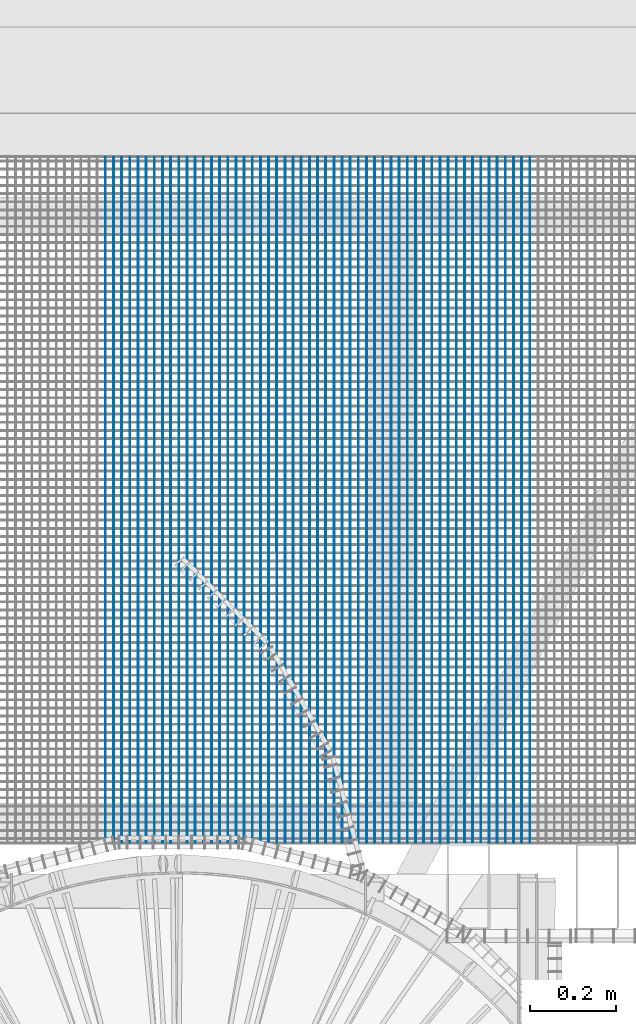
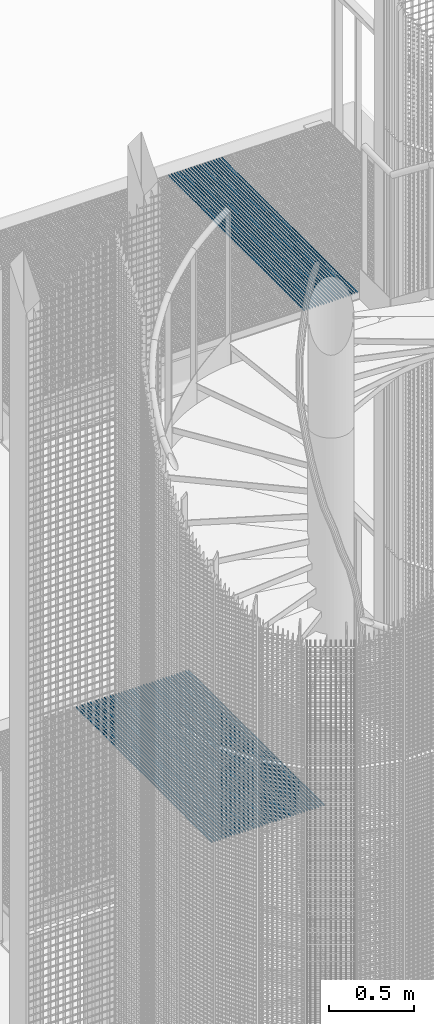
# One storey, part 98 of 1183: 61 beams, 2 elements without a shape of their own.
"""IFC2X3 building model written with IfcOpenShell, lengths in millimetres."""

from ifc_helpers import new_model, si_unit, frame, origin_with_axes, origin_2d_with_axis, place, context, subcontext, project, spatial, rectangle, extrude, material, type_object, element, aggregate, save


model = new_model("IFC2X3")

# Units and contexts
model_context = context("Model", 3, precision=1e-05, world=origin_with_axes())
body_context = subcontext(model_context, "Body", "Model", "MODEL_VIEW")
ifc_project = project(units=[si_unit("LENGTHUNIT", "METRE", prefix="MILLI"), si_unit("AREAUNIT", "SQUARE_METRE"), si_unit("VOLUMEUNIT", "CUBIC_METRE"), si_unit("MASSUNIT", "GRAM", prefix="KILO"), si_unit("TIMEUNIT", "SECOND"), si_unit("PLANEANGLEUNIT", "RADIAN"), si_unit("SOLIDANGLEUNIT", "STERADIAN"), si_unit("THERMODYNAMICTEMPERATUREUNIT", "DEGREE_CELSIUS"), si_unit("LUMINOUSINTENSITYUNIT", "LUMEN")], contexts=[model_context])

# Site, building, storey
site_placement = place(None, origin_with_axes())
site = spatial("IfcSite", under=ifc_project, at=site_placement, Name="Undefined", CompositionType="ELEMENT")
building_placement = place(site_placement, origin_with_axes())
building = spatial("IfcBuilding", under=site, at=building_placement, Name="Undefined", CompositionType="ELEMENT")
storey_placement = place(building_placement, origin_with_axes())
storey = spatial("IfcBuildingStorey", under=building, at=storey_placement, Name="Undefined", CompositionType="ELEMENT", Elevation=0.0)

# Assembly, beams
assembly_1_placement = place(storey_placement, origin_with_axes())
assembly_1 = element("IfcElementAssembly", 1, at=assembly_1_placement, inside=storey, Name="BORDURE", AssemblyPlace="NOTDEFINED", PredefinedType="NOTDEFINED")
ifc_material = material(Name="STEEL/S235JR")
beam_type = type_object("IfcBeamType", Name="PL2*10", PredefinedType="NOTDEFINED")
beam_1_placement = place(assembly_1_placement, frame((22056.1154247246, 1102.00456345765, 13685.0), z_axis=(0.0, 0.0, 1.0), x_axis=(-4.50599999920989e-06, 0.999999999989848, 0.0)))
beam_1 = element("IfcBeam", 2, at=beam_1_placement, type_object=beam_type, material=ifc_material, Name="ENTRETOISE", context=body_context, shape_type="SweptSolid", body=[
    extrude(rectangle(XDim=2.0, YDim=10.0, at=origin_2d_with_axis()), frame((1596.0000000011, -1.35186458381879e-18, -7.27595761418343e-12), z_axis=(-1.0, 0.0, 0.0), x_axis=(0.0, -1.0, 0.0)), (0.0, 0.0, 1.0), 1596.0),
])
beam_2_placement = place(assembly_1_placement, frame((22075.1154247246, 1102.0046569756, 13685.0), z_axis=(0.0, 0.0, 1.0), x_axis=(-4.50599999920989e-06, 0.999999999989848, 0.0)))
beam_2 = element("IfcBeam", 3, at=beam_2_placement, type_object=beam_type, material=ifc_material, Name="ENTRETOISE", context=body_context, shape_type="SweptSolid", body=[
    extrude(rectangle(XDim=2.0, YDim=10.0, at=origin_2d_with_axis()), frame((1596.0000000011, -1.35186458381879e-18, -7.27595761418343e-12), z_axis=(-1.0, 0.0, 0.0), x_axis=(0.0, -1.0, 0.0)), (0.0, 0.0, 1.0), 1596.0),
])
beam_3_placement = place(assembly_1_placement, frame((22094.1154247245, 1102.00475049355, 13685.0), z_axis=(0.0, 0.0, 1.0), x_axis=(-4.50599999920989e-06, 0.999999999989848, 0.0)))
beam_3 = element("IfcBeam", 4, at=beam_3_placement, type_object=beam_type, material=ifc_material, Name="ENTRETOISE", context=body_context, shape_type="SweptSolid", body=[
    extrude(rectangle(XDim=2.0, YDim=10.0, at=origin_2d_with_axis()), frame((1596.0000000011, -1.35186458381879e-18, -7.27595761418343e-12), z_axis=(-1.0, 0.0, 0.0), x_axis=(0.0, -1.0, 0.0)), (0.0, 0.0, 1.0), 1596.0),
])
beam_4_placement = place(assembly_1_placement, frame((22113.1154247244, 1102.0048440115, 13685.0), z_axis=(0.0, 0.0, 1.0), x_axis=(-4.50599999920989e-06, 0.999999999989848, 0.0)))
beam_4 = element("IfcBeam", 5, at=beam_4_placement, type_object=beam_type, material=ifc_material, Name="ENTRETOISE", context=body_context, shape_type="SweptSolid", body=[
    extrude(rectangle(XDim=2.0, YDim=10.0, at=origin_2d_with_axis()), frame((1596.0000000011, -1.35186458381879e-18, -7.27595761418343e-12), z_axis=(-1.0, 0.0, 0.0), x_axis=(0.0, -1.0, 0.0)), (0.0, 0.0, 1.0), 1596.0),
])
beam_5_placement = place(assembly_1_placement, frame((22132.1154247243, 1102.00493752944, 13685.0), z_axis=(0.0, 0.0, 1.0), x_axis=(-4.50599999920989e-06, 0.999999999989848, 0.0)))
beam_5 = element("IfcBeam", 6, at=beam_5_placement, type_object=beam_type, material=ifc_material, Name="ENTRETOISE", context=body_context, shape_type="SweptSolid", body=[
    extrude(rectangle(XDim=2.0, YDim=10.0, at=origin_2d_with_axis()), frame((1596.0000000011, -1.35186458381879e-18, -7.27595761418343e-12), z_axis=(-1.0, 0.0, 0.0), x_axis=(0.0, -1.0, 0.0)), (0.0, 0.0, 1.0), 1596.0),
])
beam_6_placement = place(assembly_1_placement, frame((22151.1154247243, 1102.00503104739, 13685.0), z_axis=(0.0, 0.0, 1.0), x_axis=(-4.50599999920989e-06, 0.999999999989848, 0.0)))
beam_6 = element("IfcBeam", 7, at=beam_6_placement, type_object=beam_type, material=ifc_material, Name="ENTRETOISE", context=body_context, shape_type="SweptSolid", body=[
    extrude(rectangle(XDim=2.0, YDim=10.0, at=origin_2d_with_axis()), frame((1596.0000000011, -1.35186458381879e-18, -7.27595761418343e-12), z_axis=(-1.0, 0.0, 0.0), x_axis=(0.0, -1.0, 0.0)), (0.0, 0.0, 1.0), 1596.0),
])
beam_7_placement = place(assembly_1_placement, frame((22170.1154247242, 1102.00512456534, 13685.0), z_axis=(0.0, 0.0, 1.0), x_axis=(-4.50599999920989e-06, 0.999999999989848, 0.0)))
beam_7 = element("IfcBeam", 8, at=beam_7_placement, type_object=beam_type, material=ifc_material, Name="ENTRETOISE", context=body_context, shape_type="SweptSolid", body=[
    extrude(rectangle(XDim=2.0, YDim=10.0, at=origin_2d_with_axis()), frame((1596.0000000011, -1.35186458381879e-18, -7.27595761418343e-12), z_axis=(-1.0, 0.0, 0.0), x_axis=(0.0, -1.0, 0.0)), (0.0, 0.0, 1.0), 1596.0),
])
beam_8_placement = place(assembly_1_placement, frame((22189.1154247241, 1102.00521808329, 13685.0), z_axis=(0.0, 0.0, 1.0), x_axis=(-4.50599999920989e-06, 0.999999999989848, 0.0)))
beam_8 = element("IfcBeam", 9, at=beam_8_placement, type_object=beam_type, material=ifc_material, Name="ENTRETOISE", context=body_context, shape_type="SweptSolid", body=[
    extrude(rectangle(XDim=2.0, YDim=10.0, at=origin_2d_with_axis()), frame((1596.0000000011, -1.35186458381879e-18, -7.27595761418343e-12), z_axis=(-1.0, 0.0, 0.0), x_axis=(0.0, -1.0, 0.0)), (0.0, 0.0, 1.0), 1596.0),
])
beam_9_placement = place(assembly_1_placement, frame((22208.1154247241, 1102.00531160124, 13685.0), z_axis=(0.0, 0.0, 1.0), x_axis=(-4.50599999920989e-06, 0.999999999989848, 0.0)))
beam_9 = element("IfcBeam", 10, at=beam_9_placement, type_object=beam_type, material=ifc_material, Name="ENTRETOISE", context=body_context, shape_type="SweptSolid", body=[
    extrude(rectangle(XDim=2.0, YDim=10.0, at=origin_2d_with_axis()), frame((1596.0000000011, -1.35186458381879e-18, -7.27595761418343e-12), z_axis=(-1.0, 0.0, 0.0), x_axis=(0.0, -1.0, 0.0)), (0.0, 0.0, 1.0), 1596.0),
])
beam_10_placement = place(assembly_1_placement, frame((22227.115424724, 1102.00540511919, 13685.0), z_axis=(0.0, 0.0, 1.0), x_axis=(-4.50599999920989e-06, 0.999999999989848, 0.0)))
beam_10 = element("IfcBeam", 11, at=beam_10_placement, type_object=beam_type, material=ifc_material, Name="ENTRETOISE", context=body_context, shape_type="SweptSolid", body=[
    extrude(rectangle(XDim=2.0, YDim=10.0, at=origin_2d_with_axis()), frame((1596.0000000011, -1.35186458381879e-18, -7.27595761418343e-12), z_axis=(-1.0, 0.0, 0.0), x_axis=(0.0, -1.0, 0.0)), (0.0, 0.0, 1.0), 1596.0),
])
beam_11_placement = place(assembly_1_placement, frame((22246.1154247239, 1102.00549863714, 13685.0), z_axis=(0.0, 0.0, 1.0), x_axis=(-4.50599999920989e-06, 0.999999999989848, 0.0)))
beam_11 = element("IfcBeam", 12, at=beam_11_placement, type_object=beam_type, material=ifc_material, Name="ENTRETOISE", context=body_context, shape_type="SweptSolid", body=[
    extrude(rectangle(XDim=2.0, YDim=10.0, at=origin_2d_with_axis()), frame((1596.0000000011, -1.35186458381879e-18, -7.27595761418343e-12), z_axis=(-1.0, 0.0, 0.0), x_axis=(0.0, -1.0, 0.0)), (0.0, 0.0, 1.0), 1596.0),
])
beam_12_placement = place(assembly_1_placement, frame((22265.1154247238, 1102.00559215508, 13685.0), z_axis=(0.0, 0.0, 1.0), x_axis=(-4.50599999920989e-06, 0.999999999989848, 0.0)))
beam_12 = element("IfcBeam", 13, at=beam_12_placement, type_object=beam_type, material=ifc_material, Name="ENTRETOISE", context=body_context, shape_type="SweptSolid", body=[
    extrude(rectangle(XDim=2.0, YDim=10.0, at=origin_2d_with_axis()), frame((1596.0000000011, -1.35186458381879e-18, -7.27595761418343e-12), z_axis=(-1.0, 0.0, 0.0), x_axis=(0.0, -1.0, 0.0)), (0.0, 0.0, 1.0), 1596.0),
])
beam_13_placement = place(assembly_1_placement, frame((22284.1154247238, 1102.00568567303, 13685.0), z_axis=(0.0, 0.0, 1.0), x_axis=(-4.50599999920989e-06, 0.999999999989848, 0.0)))
beam_13 = element("IfcBeam", 14, at=beam_13_placement, type_object=beam_type, material=ifc_material, Name="ENTRETOISE", context=body_context, shape_type="SweptSolid", body=[
    extrude(rectangle(XDim=2.0, YDim=10.0, at=origin_2d_with_axis()), frame((1596.0000000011, -1.35186458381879e-18, -7.27595761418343e-12), z_axis=(-1.0, 0.0, 0.0), x_axis=(0.0, -1.0, 0.0)), (0.0, 0.0, 1.0), 1596.0),
])
beam_14_placement = place(assembly_1_placement, frame((22303.1154247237, 1102.00577919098, 13685.0), z_axis=(0.0, 0.0, 1.0), x_axis=(-4.50599999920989e-06, 0.999999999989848, 0.0)))
beam_14 = element("IfcBeam", 15, at=beam_14_placement, type_object=beam_type, material=ifc_material, Name="ENTRETOISE", context=body_context, shape_type="SweptSolid", body=[
    extrude(rectangle(XDim=2.0, YDim=10.0, at=origin_2d_with_axis()), frame((1596.0000000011, -1.35186458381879e-18, -7.27595761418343e-12), z_axis=(-1.0, 0.0, 0.0), x_axis=(0.0, -1.0, 0.0)), (0.0, 0.0, 1.0), 1596.0),
])
beam_15_placement = place(assembly_1_placement, frame((22322.1154247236, 1102.00587270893, 13685.0), z_axis=(0.0, 0.0, 1.0), x_axis=(-4.50599999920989e-06, 0.999999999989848, 0.0)))
beam_15 = element("IfcBeam", 16, at=beam_15_placement, type_object=beam_type, material=ifc_material, Name="ENTRETOISE", context=body_context, shape_type="SweptSolid", body=[
    extrude(rectangle(XDim=2.0, YDim=10.0, at=origin_2d_with_axis()), frame((1596.0000000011, -1.35186458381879e-18, -7.27595761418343e-12), z_axis=(-1.0, 0.0, 0.0), x_axis=(0.0, -1.0, 0.0)), (0.0, 0.0, 1.0), 1596.0),
])
beam_16_placement = place(assembly_1_placement, frame((22341.1154247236, 1102.00596622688, 13685.0), z_axis=(0.0, 0.0, 1.0), x_axis=(-4.50599999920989e-06, 0.999999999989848, 0.0)))
beam_16 = element("IfcBeam", 17, at=beam_16_placement, type_object=beam_type, material=ifc_material, Name="ENTRETOISE", context=body_context, shape_type="SweptSolid", body=[
    extrude(rectangle(XDim=2.0, YDim=10.0, at=origin_2d_with_axis()), frame((1596.0000000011, -1.35186458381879e-18, -7.27595761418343e-12), z_axis=(-1.0, 0.0, 0.0), x_axis=(0.0, -1.0, 0.0)), (0.0, 0.0, 1.0), 1596.0),
])
beam_17_placement = place(assembly_1_placement, frame((22360.1154247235, 1102.00605974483, 13685.0), z_axis=(0.0, 0.0, 1.0), x_axis=(-4.50599999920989e-06, 0.999999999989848, 0.0)))
beam_17 = element("IfcBeam", 18, at=beam_17_placement, type_object=beam_type, material=ifc_material, Name="ENTRETOISE", context=body_context, shape_type="SweptSolid", body=[
    extrude(rectangle(XDim=2.0, YDim=10.0, at=origin_2d_with_axis()), frame((1596.0000000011, -1.35186458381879e-18, -7.27595761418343e-12), z_axis=(-1.0, 0.0, 0.0), x_axis=(0.0, -1.0, 0.0)), (0.0, 0.0, 1.0), 1596.0),
])
beam_18_placement = place(assembly_1_placement, frame((22379.1154247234, 1102.00615326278, 13685.0), z_axis=(0.0, 0.0, 1.0), x_axis=(-4.50599999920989e-06, 0.999999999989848, 0.0)))
beam_18 = element("IfcBeam", 19, at=beam_18_placement, type_object=beam_type, material=ifc_material, Name="ENTRETOISE", context=body_context, shape_type="SweptSolid", body=[
    extrude(rectangle(XDim=2.0, YDim=10.0, at=origin_2d_with_axis()), frame((1596.0000000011, -1.35186458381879e-18, -7.27595761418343e-12), z_axis=(-1.0, 0.0, 0.0), x_axis=(0.0, -1.0, 0.0)), (0.0, 0.0, 1.0), 1596.0),
])
beam_19_placement = place(assembly_1_placement, frame((22398.1154247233, 1102.00624678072, 13685.0), z_axis=(0.0, 0.0, 1.0), x_axis=(-4.50599999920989e-06, 0.999999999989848, 0.0)))
beam_19 = element("IfcBeam", 20, at=beam_19_placement, type_object=beam_type, material=ifc_material, Name="ENTRETOISE", context=body_context, shape_type="SweptSolid", body=[
    extrude(rectangle(XDim=2.0, YDim=10.0, at=origin_2d_with_axis()), frame((1596.0000000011, -1.35186458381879e-18, -7.27595761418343e-12), z_axis=(-1.0, 0.0, 0.0), x_axis=(0.0, -1.0, 0.0)), (0.0, 0.0, 1.0), 1596.0),
])
beam_20_placement = place(assembly_1_placement, frame((22417.1154247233, 1102.00634029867, 13685.0), z_axis=(0.0, 0.0, 1.0), x_axis=(-4.50599999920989e-06, 0.999999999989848, 0.0)))
beam_20 = element("IfcBeam", 21, at=beam_20_placement, type_object=beam_type, material=ifc_material, Name="ENTRETOISE", context=body_context, shape_type="SweptSolid", body=[
    extrude(rectangle(XDim=2.0, YDim=10.0, at=origin_2d_with_axis()), frame((1596.0000000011, -1.35186458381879e-18, -7.27595761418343e-12), z_axis=(-1.0, 0.0, 0.0), x_axis=(0.0, -1.0, 0.0)), (0.0, 0.0, 1.0), 1596.0),
])
aggregate(assembly_1, [beam_1, beam_2, beam_3, beam_4, beam_5, beam_6, beam_7, beam_8, beam_9, beam_10, beam_11, beam_12, beam_13, beam_14, beam_15, beam_16, beam_17, beam_18, beam_19, beam_20])

assembly_2_placement = place(storey_placement, origin_with_axes())
assembly_2 = element("IfcElementAssembly", 22, at=assembly_2_placement, inside=storey, Name="BORDURE", AssemblyPlace="NOTDEFINED", PredefinedType="NOTDEFINED")
beam_21_placement = place(assembly_2_placement, frame((21429.115424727, 1102.00147736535, 10085.0), z_axis=(0.0, 0.0, 1.0), x_axis=(-4.50599999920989e-06, 0.999999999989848, 0.0)))
beam_21 = element("IfcBeam", 23, at=beam_21_placement, type_object=beam_type, material=ifc_material, Name="ENTRETOISE", context=body_context, shape_type="SweptSolid", body=[
    extrude(rectangle(XDim=2.0, YDim=10.0, at=origin_2d_with_axis()), frame((1596.0000000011, -1.35186458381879e-18, -7.27595761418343e-12), z_axis=(-1.0, 0.0, 0.0), x_axis=(0.0, -1.0, 0.0)), (0.0, 0.0, 1.0), 1596.0),
])
beam_22_placement = place(assembly_2_placement, frame((21448.1154247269, 1102.0015708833, 10085.0), z_axis=(0.0, 0.0, 1.0), x_axis=(-4.50599999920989e-06, 0.999999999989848, 0.0)))
beam_22 = element("IfcBeam", 24, at=beam_22_placement, type_object=beam_type, material=ifc_material, Name="ENTRETOISE", context=body_context, shape_type="SweptSolid", body=[
    extrude(rectangle(XDim=2.0, YDim=10.0, at=origin_2d_with_axis()), frame((1596.0000000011, -1.35186458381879e-18, -7.27595761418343e-12), z_axis=(-1.0, 0.0, 0.0), x_axis=(0.0, -1.0, 0.0)), (0.0, 0.0, 1.0), 1596.0),
])
beam_23_placement = place(assembly_2_placement, frame((21467.1154247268, 1102.00166440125, 10085.0), z_axis=(0.0, 0.0, 1.0), x_axis=(-4.50599999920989e-06, 0.999999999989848, 0.0)))
beam_23 = element("IfcBeam", 25, at=beam_23_placement, type_object=beam_type, material=ifc_material, Name="ENTRETOISE", context=body_context, shape_type="SweptSolid", body=[
    extrude(rectangle(XDim=2.0, YDim=10.0, at=origin_2d_with_axis()), frame((1596.0000000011, -1.35186458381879e-18, -7.27595761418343e-12), z_axis=(-1.0, 0.0, 0.0), x_axis=(0.0, -1.0, 0.0)), (0.0, 0.0, 1.0), 1596.0),
])
beam_24_placement = place(assembly_2_placement, frame((21486.1154247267, 1102.0017579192, 10085.0), z_axis=(0.0, 0.0, 1.0), x_axis=(-4.50599999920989e-06, 0.999999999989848, 0.0)))
beam_24 = element("IfcBeam", 26, at=beam_24_placement, type_object=beam_type, material=ifc_material, Name="ENTRETOISE", context=body_context, shape_type="SweptSolid", body=[
    extrude(rectangle(XDim=2.0, YDim=10.0, at=origin_2d_with_axis()), frame((1596.0000000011, -1.35186458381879e-18, -7.27595761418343e-12), z_axis=(-1.0, 0.0, 0.0), x_axis=(0.0, -1.0, 0.0)), (0.0, 0.0, 1.0), 1596.0),
])
beam_25_placement = place(assembly_2_placement, frame((21505.1154247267, 1102.00185143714, 10085.0), z_axis=(0.0, 0.0, 1.0), x_axis=(-4.50599999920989e-06, 0.999999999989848, 0.0)))
beam_25 = element("IfcBeam", 27, at=beam_25_placement, type_object=beam_type, material=ifc_material, Name="ENTRETOISE", context=body_context, shape_type="SweptSolid", body=[
    extrude(rectangle(XDim=2.0, YDim=10.0, at=origin_2d_with_axis()), frame((1596.0000000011, -1.35186458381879e-18, -7.27595761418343e-12), z_axis=(-1.0, 0.0, 0.0), x_axis=(0.0, -1.0, 0.0)), (0.0, 0.0, 1.0), 1596.0),
])
beam_26_placement = place(assembly_2_placement, frame((21524.1154247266, 1102.00194495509, 10085.0), z_axis=(0.0, 0.0, 1.0), x_axis=(-4.50599999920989e-06, 0.999999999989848, 0.0)))
beam_26 = element("IfcBeam", 28, at=beam_26_placement, type_object=beam_type, material=ifc_material, Name="ENTRETOISE", context=body_context, shape_type="SweptSolid", body=[
    extrude(rectangle(XDim=2.0, YDim=10.0, at=origin_2d_with_axis()), frame((1596.0000000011, -1.35186458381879e-18, -7.27595761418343e-12), z_axis=(-1.0, 0.0, 0.0), x_axis=(0.0, -1.0, 0.0)), (0.0, 0.0, 1.0), 1596.0),
])
beam_27_placement = place(assembly_2_placement, frame((21543.1154247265, 1102.00203847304, 10085.0), z_axis=(0.0, 0.0, 1.0), x_axis=(-4.50599999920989e-06, 0.999999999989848, 0.0)))
beam_27 = element("IfcBeam", 29, at=beam_27_placement, type_object=beam_type, material=ifc_material, Name="ENTRETOISE", context=body_context, shape_type="SweptSolid", body=[
    extrude(rectangle(XDim=2.0, YDim=10.0, at=origin_2d_with_axis()), frame((1596.0000000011, -1.35186458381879e-18, -7.27595761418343e-12), z_axis=(-1.0, 0.0, 0.0), x_axis=(0.0, -1.0, 0.0)), (0.0, 0.0, 1.0), 1596.0),
])
beam_28_placement = place(assembly_2_placement, frame((21562.1154247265, 1102.00213199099, 10085.0), z_axis=(0.0, 0.0, 1.0), x_axis=(-4.50599999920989e-06, 0.999999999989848, 0.0)))
beam_28 = element("IfcBeam", 30, at=beam_28_placement, type_object=beam_type, material=ifc_material, Name="ENTRETOISE", context=body_context, shape_type="SweptSolid", body=[
    extrude(rectangle(XDim=2.0, YDim=10.0, at=origin_2d_with_axis()), frame((1596.0000000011, -1.35186458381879e-18, -7.27595761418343e-12), z_axis=(-1.0, 0.0, 0.0), x_axis=(0.0, -1.0, 0.0)), (0.0, 0.0, 1.0), 1596.0),
])
beam_29_placement = place(assembly_2_placement, frame((21581.1154247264, 1102.00222550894, 10085.0), z_axis=(0.0, 0.0, 1.0), x_axis=(-4.50599999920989e-06, 0.999999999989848, 0.0)))
beam_29 = element("IfcBeam", 31, at=beam_29_placement, type_object=beam_type, material=ifc_material, Name="ENTRETOISE", context=body_context, shape_type="SweptSolid", body=[
    extrude(rectangle(XDim=2.0, YDim=10.0, at=origin_2d_with_axis()), frame((1596.0000000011, -1.35186458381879e-18, -7.27595761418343e-12), z_axis=(-1.0, 0.0, 0.0), x_axis=(0.0, -1.0, 0.0)), (0.0, 0.0, 1.0), 1596.0),
])
beam_30_placement = place(assembly_2_placement, frame((21600.1154247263, 1102.00231902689, 10085.0), z_axis=(0.0, 0.0, 1.0), x_axis=(-4.50599999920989e-06, 0.999999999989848, 0.0)))
beam_30 = element("IfcBeam", 32, at=beam_30_placement, type_object=beam_type, material=ifc_material, Name="ENTRETOISE", context=body_context, shape_type="SweptSolid", body=[
    extrude(rectangle(XDim=2.0, YDim=10.0, at=origin_2d_with_axis()), frame((1596.0000000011, -1.35186458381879e-18, -7.27595761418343e-12), z_axis=(-1.0, 0.0, 0.0), x_axis=(0.0, -1.0, 0.0)), (0.0, 0.0, 1.0), 1596.0),
])
beam_31_placement = place(assembly_2_placement, frame((21619.1154247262, 1102.00241254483, 10085.0), z_axis=(0.0, 0.0, 1.0), x_axis=(-4.50599999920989e-06, 0.999999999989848, 0.0)))
beam_31 = element("IfcBeam", 33, at=beam_31_placement, type_object=beam_type, material=ifc_material, Name="ENTRETOISE", context=body_context, shape_type="SweptSolid", body=[
    extrude(rectangle(XDim=2.0, YDim=10.0, at=origin_2d_with_axis()), frame((1596.0000000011, -1.35186458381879e-18, -7.27595761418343e-12), z_axis=(-1.0, 0.0, 0.0), x_axis=(0.0, -1.0, 0.0)), (0.0, 0.0, 1.0), 1596.0),
])
beam_32_placement = place(assembly_2_placement, frame((21638.1154247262, 1102.00250606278, 10085.0), z_axis=(0.0, 0.0, 1.0), x_axis=(-4.50599999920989e-06, 0.999999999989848, 0.0)))
beam_32 = element("IfcBeam", 34, at=beam_32_placement, type_object=beam_type, material=ifc_material, Name="ENTRETOISE", context=body_context, shape_type="SweptSolid", body=[
    extrude(rectangle(XDim=2.0, YDim=10.0, at=origin_2d_with_axis()), frame((1596.0000000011, -1.35186458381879e-18, -7.27595761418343e-12), z_axis=(-1.0, 0.0, 0.0), x_axis=(0.0, -1.0, 0.0)), (0.0, 0.0, 1.0), 1596.0),
])
beam_33_placement = place(assembly_2_placement, frame((21657.1154247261, 1102.00259958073, 10085.0), z_axis=(0.0, 0.0, 1.0), x_axis=(-4.50599999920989e-06, 0.999999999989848, 0.0)))
beam_33 = element("IfcBeam", 35, at=beam_33_placement, type_object=beam_type, material=ifc_material, Name="ENTRETOISE", context=body_context, shape_type="SweptSolid", body=[
    extrude(rectangle(XDim=2.0, YDim=10.0, at=origin_2d_with_axis()), frame((1596.0000000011, -1.35186458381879e-18, -7.27595761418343e-12), z_axis=(-1.0, 0.0, 0.0), x_axis=(0.0, -1.0, 0.0)), (0.0, 0.0, 1.0), 1596.0),
])
beam_34_placement = place(assembly_2_placement, frame((21676.115424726, 1102.00269309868, 10085.0), z_axis=(0.0, 0.0, 1.0), x_axis=(-4.50599999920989e-06, 0.999999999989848, 0.0)))
beam_34 = element("IfcBeam", 36, at=beam_34_placement, type_object=beam_type, material=ifc_material, Name="ENTRETOISE", context=body_context, shape_type="SweptSolid", body=[
    extrude(rectangle(XDim=2.0, YDim=10.0, at=origin_2d_with_axis()), frame((1596.0000000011, -1.35186458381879e-18, -7.27595761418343e-12), z_axis=(-1.0, 0.0, 0.0), x_axis=(0.0, -1.0, 0.0)), (0.0, 0.0, 1.0), 1596.0),
])
beam_35_placement = place(assembly_2_placement, frame((21695.115424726, 1102.00278661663, 10085.0), z_axis=(0.0, 0.0, 1.0), x_axis=(-4.50599999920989e-06, 0.999999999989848, 0.0)))
beam_35 = element("IfcBeam", 37, at=beam_35_placement, type_object=beam_type, material=ifc_material, Name="ENTRETOISE", context=body_context, shape_type="SweptSolid", body=[
    extrude(rectangle(XDim=2.0, YDim=10.0, at=origin_2d_with_axis()), frame((1596.0000000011, -1.35186458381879e-18, -7.27595761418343e-12), z_axis=(-1.0, 0.0, 0.0), x_axis=(0.0, -1.0, 0.0)), (0.0, 0.0, 1.0), 1596.0),
])
beam_36_placement = place(assembly_2_placement, frame((21714.1154247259, 1102.00288013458, 10085.0), z_axis=(0.0, 0.0, 1.0), x_axis=(-4.50599999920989e-06, 0.999999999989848, 0.0)))
beam_36 = element("IfcBeam", 38, at=beam_36_placement, type_object=beam_type, material=ifc_material, Name="ENTRETOISE", context=body_context, shape_type="SweptSolid", body=[
    extrude(rectangle(XDim=2.0, YDim=10.0, at=origin_2d_with_axis()), frame((1596.0000000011, -1.35186458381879e-18, -7.27595761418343e-12), z_axis=(-1.0, 0.0, 0.0), x_axis=(0.0, -1.0, 0.0)), (0.0, 0.0, 1.0), 1596.0),
])
beam_37_placement = place(assembly_2_placement, frame((21733.1154247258, 1102.00297365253, 10085.0), z_axis=(0.0, 0.0, 1.0), x_axis=(-4.50599999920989e-06, 0.999999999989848, 0.0)))
beam_37 = element("IfcBeam", 39, at=beam_37_placement, type_object=beam_type, material=ifc_material, Name="ENTRETOISE", context=body_context, shape_type="SweptSolid", body=[
    extrude(rectangle(XDim=2.0, YDim=10.0, at=origin_2d_with_axis()), frame((1596.0000000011, -1.35186458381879e-18, -7.27595761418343e-12), z_axis=(-1.0, 0.0, 0.0), x_axis=(0.0, -1.0, 0.0)), (0.0, 0.0, 1.0), 1596.0),
])
beam_38_placement = place(assembly_2_placement, frame((21752.1154247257, 1102.00306717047, 10085.0), z_axis=(0.0, 0.0, 1.0), x_axis=(-4.50599999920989e-06, 0.999999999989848, 0.0)))
beam_38 = element("IfcBeam", 40, at=beam_38_placement, type_object=beam_type, material=ifc_material, Name="ENTRETOISE", context=body_context, shape_type="SweptSolid", body=[
    extrude(rectangle(XDim=2.0, YDim=10.0, at=origin_2d_with_axis()), frame((1596.0000000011, -1.35186458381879e-18, -7.27595761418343e-12), z_axis=(-1.0, 0.0, 0.0), x_axis=(0.0, -1.0, 0.0)), (0.0, 0.0, 1.0), 1596.0),
])
beam_39_placement = place(assembly_2_placement, frame((21771.1154247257, 1102.00316068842, 10085.0), z_axis=(0.0, 0.0, 1.0), x_axis=(-4.50599999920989e-06, 0.999999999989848, 0.0)))
beam_39 = element("IfcBeam", 41, at=beam_39_placement, type_object=beam_type, material=ifc_material, Name="ENTRETOISE", context=body_context, shape_type="SweptSolid", body=[
    extrude(rectangle(XDim=2.0, YDim=10.0, at=origin_2d_with_axis()), frame((1596.0000000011, -1.35186458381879e-18, -7.27595761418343e-12), z_axis=(-1.0, 0.0, 0.0), x_axis=(0.0, -1.0, 0.0)), (0.0, 0.0, 1.0), 1596.0),
])
beam_40_placement = place(assembly_2_placement, frame((21790.1154247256, 1102.00325420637, 10085.0), z_axis=(0.0, 0.0, 1.0), x_axis=(-4.50599999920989e-06, 0.999999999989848, 0.0)))
beam_40 = element("IfcBeam", 42, at=beam_40_placement, type_object=beam_type, material=ifc_material, Name="ENTRETOISE", context=body_context, shape_type="SweptSolid", body=[
    extrude(rectangle(XDim=2.0, YDim=10.0, at=origin_2d_with_axis()), frame((1596.0000000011, -1.35186458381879e-18, -7.27595761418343e-12), z_axis=(-1.0, 0.0, 0.0), x_axis=(0.0, -1.0, 0.0)), (0.0, 0.0, 1.0), 1596.0),
])
beam_41_placement = place(assembly_2_placement, frame((21809.1154247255, 1102.00334772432, 10085.0), z_axis=(0.0, 0.0, 1.0), x_axis=(-4.50599999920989e-06, 0.999999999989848, 0.0)))
beam_41 = element("IfcBeam", 43, at=beam_41_placement, type_object=beam_type, material=ifc_material, Name="ENTRETOISE", context=body_context, shape_type="SweptSolid", body=[
    extrude(rectangle(XDim=2.0, YDim=10.0, at=origin_2d_with_axis()), frame((1596.0000000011, -1.35186458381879e-18, -7.27595761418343e-12), z_axis=(-1.0, 0.0, 0.0), x_axis=(0.0, -1.0, 0.0)), (0.0, 0.0, 1.0), 1596.0),
])
beam_42_placement = place(assembly_2_placement, frame((21828.1154247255, 1102.00344124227, 10085.0), z_axis=(0.0, 0.0, 1.0), x_axis=(-4.50599999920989e-06, 0.999999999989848, 0.0)))
beam_42 = element("IfcBeam", 44, at=beam_42_placement, type_object=beam_type, material=ifc_material, Name="ENTRETOISE", context=body_context, shape_type="SweptSolid", body=[
    extrude(rectangle(XDim=2.0, YDim=10.0, at=origin_2d_with_axis()), frame((1596.0000000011, -1.35186458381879e-18, -7.27595761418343e-12), z_axis=(-1.0, 0.0, 0.0), x_axis=(0.0, -1.0, 0.0)), (0.0, 0.0, 1.0), 1596.0),
])
beam_43_placement = place(assembly_2_placement, frame((21847.1154247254, 1102.00353476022, 10085.0), z_axis=(0.0, 0.0, 1.0), x_axis=(-4.50599999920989e-06, 0.999999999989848, 0.0)))
beam_43 = element("IfcBeam", 45, at=beam_43_placement, type_object=beam_type, material=ifc_material, Name="ENTRETOISE", context=body_context, shape_type="SweptSolid", body=[
    extrude(rectangle(XDim=2.0, YDim=10.0, at=origin_2d_with_axis()), frame((1596.0000000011, -1.35186458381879e-18, -7.27595761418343e-12), z_axis=(-1.0, 0.0, 0.0), x_axis=(0.0, -1.0, 0.0)), (0.0, 0.0, 1.0), 1596.0),
])
beam_44_placement = place(assembly_2_placement, frame((21866.1154247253, 1102.00362827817, 10085.0), z_axis=(0.0, 0.0, 1.0), x_axis=(-4.50599999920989e-06, 0.999999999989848, 0.0)))
beam_44 = element("IfcBeam", 46, at=beam_44_placement, type_object=beam_type, material=ifc_material, Name="ENTRETOISE", context=body_context, shape_type="SweptSolid", body=[
    extrude(rectangle(XDim=2.0, YDim=10.0, at=origin_2d_with_axis()), frame((1596.0000000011, -1.35186458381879e-18, -7.27595761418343e-12), z_axis=(-1.0, 0.0, 0.0), x_axis=(0.0, -1.0, 0.0)), (0.0, 0.0, 1.0), 1596.0),
])
beam_45_placement = place(assembly_2_placement, frame((21885.1154247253, 1102.00372179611, 10085.0), z_axis=(0.0, 0.0, 1.0), x_axis=(-4.50599999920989e-06, 0.999999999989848, 0.0)))
beam_45 = element("IfcBeam", 47, at=beam_45_placement, type_object=beam_type, material=ifc_material, Name="ENTRETOISE", context=body_context, shape_type="SweptSolid", body=[
    extrude(rectangle(XDim=2.0, YDim=10.0, at=origin_2d_with_axis()), frame((1596.0000000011, -1.35186458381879e-18, -7.27595761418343e-12), z_axis=(-1.0, 0.0, 0.0), x_axis=(0.0, -1.0, 0.0)), (0.0, 0.0, 1.0), 1596.0),
])
beam_46_placement = place(assembly_2_placement, frame((21904.1154247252, 1102.00381531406, 10085.0), z_axis=(0.0, 0.0, 1.0), x_axis=(-4.50599999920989e-06, 0.999999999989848, 0.0)))
beam_46 = element("IfcBeam", 48, at=beam_46_placement, type_object=beam_type, material=ifc_material, Name="ENTRETOISE", context=body_context, shape_type="SweptSolid", body=[
    extrude(rectangle(XDim=2.0, YDim=10.0, at=origin_2d_with_axis()), frame((1596.0000000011, -1.35186458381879e-18, -7.27595761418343e-12), z_axis=(-1.0, 0.0, 0.0), x_axis=(0.0, -1.0, 0.0)), (0.0, 0.0, 1.0), 1596.0),
])
beam_47_placement = place(assembly_2_placement, frame((21923.1154247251, 1102.00390883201, 10085.0), z_axis=(0.0, 0.0, 1.0), x_axis=(-4.50599999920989e-06, 0.999999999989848, 0.0)))
beam_47 = element("IfcBeam", 49, at=beam_47_placement, type_object=beam_type, material=ifc_material, Name="ENTRETOISE", context=body_context, shape_type="SweptSolid", body=[
    extrude(rectangle(XDim=2.0, YDim=10.0, at=origin_2d_with_axis()), frame((1596.0000000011, -1.35186458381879e-18, -7.27595761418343e-12), z_axis=(-1.0, 0.0, 0.0), x_axis=(0.0, -1.0, 0.0)), (0.0, 0.0, 1.0), 1596.0),
])
beam_48_placement = place(assembly_2_placement, frame((21942.115424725, 1102.00400234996, 10085.0), z_axis=(0.0, 0.0, 1.0), x_axis=(-4.50599999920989e-06, 0.999999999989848, 0.0)))
beam_48 = element("IfcBeam", 50, at=beam_48_placement, type_object=beam_type, material=ifc_material, Name="ENTRETOISE", context=body_context, shape_type="SweptSolid", body=[
    extrude(rectangle(XDim=2.0, YDim=10.0, at=origin_2d_with_axis()), frame((1596.0000000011, -1.35186458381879e-18, -7.27595761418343e-12), z_axis=(-1.0, 0.0, 0.0), x_axis=(0.0, -1.0, 0.0)), (0.0, 0.0, 1.0), 1596.0),
])
beam_49_placement = place(assembly_2_placement, frame((21961.115424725, 1102.00409586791, 10085.0), z_axis=(0.0, 0.0, 1.0), x_axis=(-4.50599999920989e-06, 0.999999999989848, 0.0)))
beam_49 = element("IfcBeam", 51, at=beam_49_placement, type_object=beam_type, material=ifc_material, Name="ENTRETOISE", context=body_context, shape_type="SweptSolid", body=[
    extrude(rectangle(XDim=2.0, YDim=10.0, at=origin_2d_with_axis()), frame((1596.0000000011, -1.35186458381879e-18, -7.27595761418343e-12), z_axis=(-1.0, 0.0, 0.0), x_axis=(0.0, -1.0, 0.0)), (0.0, 0.0, 1.0), 1596.0),
])
beam_50_placement = place(assembly_2_placement, frame((21980.1154247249, 1102.00418938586, 10085.0), z_axis=(0.0, 0.0, 1.0), x_axis=(-4.50599999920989e-06, 0.999999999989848, 0.0)))
beam_50 = element("IfcBeam", 52, at=beam_50_placement, type_object=beam_type, material=ifc_material, Name="ENTRETOISE", context=body_context, shape_type="SweptSolid", body=[
    extrude(rectangle(XDim=2.0, YDim=10.0, at=origin_2d_with_axis()), frame((1596.0000000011, -1.35186458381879e-18, -7.27595761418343e-12), z_axis=(-1.0, 0.0, 0.0), x_axis=(0.0, -1.0, 0.0)), (0.0, 0.0, 1.0), 1596.0),
])
beam_51_placement = place(assembly_2_placement, frame((21999.1154247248, 1102.0042829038, 10085.0), z_axis=(0.0, 0.0, 1.0), x_axis=(-4.50599999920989e-06, 0.999999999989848, 0.0)))
beam_51 = element("IfcBeam", 53, at=beam_51_placement, type_object=beam_type, material=ifc_material, Name="ENTRETOISE", context=body_context, shape_type="SweptSolid", body=[
    extrude(rectangle(XDim=2.0, YDim=10.0, at=origin_2d_with_axis()), frame((1596.0000000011, -1.35186458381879e-18, -7.27595761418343e-12), z_axis=(-1.0, 0.0, 0.0), x_axis=(0.0, -1.0, 0.0)), (0.0, 0.0, 1.0), 1596.0),
])
beam_52_placement = place(assembly_2_placement, frame((22018.1154247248, 1102.00437642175, 10085.0), z_axis=(0.0, 0.0, 1.0), x_axis=(-4.50599999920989e-06, 0.999999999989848, 0.0)))
beam_52 = element("IfcBeam", 54, at=beam_52_placement, type_object=beam_type, material=ifc_material, Name="ENTRETOISE", context=body_context, shape_type="SweptSolid", body=[
    extrude(rectangle(XDim=2.0, YDim=10.0, at=origin_2d_with_axis()), frame((1596.0000000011, -1.35186458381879e-18, -7.27595761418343e-12), z_axis=(-1.0, 0.0, 0.0), x_axis=(0.0, -1.0, 0.0)), (0.0, 0.0, 1.0), 1596.0),
])
beam_53_placement = place(assembly_2_placement, frame((22037.1154247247, 1102.0044699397, 10085.0), z_axis=(0.0, 0.0, 1.0), x_axis=(-4.50599999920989e-06, 0.999999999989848, 0.0)))
beam_53 = element("IfcBeam", 55, at=beam_53_placement, type_object=beam_type, material=ifc_material, Name="ENTRETOISE", context=body_context, shape_type="SweptSolid", body=[
    extrude(rectangle(XDim=2.0, YDim=10.0, at=origin_2d_with_axis()), frame((1596.0000000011, -1.35186458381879e-18, -7.27595761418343e-12), z_axis=(-1.0, 0.0, 0.0), x_axis=(0.0, -1.0, 0.0)), (0.0, 0.0, 1.0), 1596.0),
])
beam_54_placement = place(assembly_2_placement, frame((22056.1154247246, 1102.00456345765, 10085.0), z_axis=(0.0, 0.0, 1.0), x_axis=(-4.50599999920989e-06, 0.999999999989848, 0.0)))
beam_54 = element("IfcBeam", 56, at=beam_54_placement, type_object=beam_type, material=ifc_material, Name="ENTRETOISE", context=body_context, shape_type="SweptSolid", body=[
    extrude(rectangle(XDim=2.0, YDim=10.0, at=origin_2d_with_axis()), frame((1596.0000000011, -1.35186458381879e-18, -7.27595761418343e-12), z_axis=(-1.0, 0.0, 0.0), x_axis=(0.0, -1.0, 0.0)), (0.0, 0.0, 1.0), 1596.0),
])
beam_55_placement = place(assembly_2_placement, frame((22075.1154247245, 1102.0046569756, 10085.0), z_axis=(0.0, 0.0, 1.0), x_axis=(-4.50599999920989e-06, 0.999999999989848, 0.0)))
beam_55 = element("IfcBeam", 57, at=beam_55_placement, type_object=beam_type, material=ifc_material, Name="ENTRETOISE", context=body_context, shape_type="SweptSolid", body=[
    extrude(rectangle(XDim=2.0, YDim=10.0, at=origin_2d_with_axis()), frame((1596.0000000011, -1.35186458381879e-18, -7.27595761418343e-12), z_axis=(-1.0, 0.0, 0.0), x_axis=(0.0, -1.0, 0.0)), (0.0, 0.0, 1.0), 1596.0),
])
beam_56_placement = place(assembly_2_placement, frame((22094.1154247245, 1102.00475049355, 10085.0), z_axis=(0.0, 0.0, 1.0), x_axis=(-4.50599999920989e-06, 0.999999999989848, 0.0)))
beam_56 = element("IfcBeam", 58, at=beam_56_placement, type_object=beam_type, material=ifc_material, Name="ENTRETOISE", context=body_context, shape_type="SweptSolid", body=[
    extrude(rectangle(XDim=2.0, YDim=10.0, at=origin_2d_with_axis()), frame((1596.0000000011, -1.35186458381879e-18, -7.27595761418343e-12), z_axis=(-1.0, 0.0, 0.0), x_axis=(0.0, -1.0, 0.0)), (0.0, 0.0, 1.0), 1596.0),
])
beam_57_placement = place(assembly_2_placement, frame((22113.1154247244, 1102.0048440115, 10085.0), z_axis=(0.0, 0.0, 1.0), x_axis=(-4.50599999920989e-06, 0.999999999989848, 0.0)))
beam_57 = element("IfcBeam", 59, at=beam_57_placement, type_object=beam_type, material=ifc_material, Name="ENTRETOISE", context=body_context, shape_type="SweptSolid", body=[
    extrude(rectangle(XDim=2.0, YDim=10.0, at=origin_2d_with_axis()), frame((1596.0000000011, -1.35186458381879e-18, -7.27595761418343e-12), z_axis=(-1.0, 0.0, 0.0), x_axis=(0.0, -1.0, 0.0)), (0.0, 0.0, 1.0), 1596.0),
])
beam_58_placement = place(assembly_2_placement, frame((22132.1154247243, 1102.00493752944, 10085.0), z_axis=(0.0, 0.0, 1.0), x_axis=(-4.50599999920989e-06, 0.999999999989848, 0.0)))
beam_58 = element("IfcBeam", 60, at=beam_58_placement, type_object=beam_type, material=ifc_material, Name="ENTRETOISE", context=body_context, shape_type="SweptSolid", body=[
    extrude(rectangle(XDim=2.0, YDim=10.0, at=origin_2d_with_axis()), frame((1596.0000000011, -1.35186458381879e-18, -7.27595761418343e-12), z_axis=(-1.0, 0.0, 0.0), x_axis=(0.0, -1.0, 0.0)), (0.0, 0.0, 1.0), 1596.0),
])
beam_59_placement = place(assembly_2_placement, frame((22151.1154247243, 1102.00503104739, 10085.0), z_axis=(0.0, 0.0, 1.0), x_axis=(-4.50599999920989e-06, 0.999999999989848, 0.0)))
beam_59 = element("IfcBeam", 61, at=beam_59_placement, type_object=beam_type, material=ifc_material, Name="ENTRETOISE", context=body_context, shape_type="SweptSolid", body=[
    extrude(rectangle(XDim=2.0, YDim=10.0, at=origin_2d_with_axis()), frame((1596.0000000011, -1.35186458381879e-18, -7.27595761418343e-12), z_axis=(-1.0, 0.0, 0.0), x_axis=(0.0, -1.0, 0.0)), (0.0, 0.0, 1.0), 1596.0),
])
beam_60_placement = place(assembly_2_placement, frame((22170.1154247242, 1102.00512456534, 10085.0), z_axis=(0.0, 0.0, 1.0), x_axis=(-4.50599999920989e-06, 0.999999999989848, 0.0)))
beam_60 = element("IfcBeam", 62, at=beam_60_placement, type_object=beam_type, material=ifc_material, Name="ENTRETOISE", context=body_context, shape_type="SweptSolid", body=[
    extrude(rectangle(XDim=2.0, YDim=10.0, at=origin_2d_with_axis()), frame((1596.0000000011, -1.35186458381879e-18, -7.27595761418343e-12), z_axis=(-1.0, 0.0, 0.0), x_axis=(0.0, -1.0, 0.0)), (0.0, 0.0, 1.0), 1596.0),
])
beam_61_placement = place(assembly_2_placement, frame((22189.1154247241, 1102.00521808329, 10085.0), z_axis=(0.0, 0.0, 1.0), x_axis=(-4.50599999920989e-06, 0.999999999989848, 0.0)))
beam_61 = element("IfcBeam", 63, at=beam_61_placement, type_object=beam_type, material=ifc_material, Name="ENTRETOISE", context=body_context, shape_type="SweptSolid", body=[
    extrude(rectangle(XDim=2.0, YDim=10.0, at=origin_2d_with_axis()), frame((1596.0000000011, -1.35186458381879e-18, -7.27595761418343e-12), z_axis=(-1.0, 0.0, 0.0), x_axis=(0.0, -1.0, 0.0)), (0.0, 0.0, 1.0), 1596.0),
])
aggregate(assembly_2, [beam_21, beam_22, beam_23, beam_24, beam_25, beam_26, beam_27, beam_28, beam_29, beam_30, beam_31, beam_32, beam_33, beam_34, beam_35, beam_36, beam_37, beam_38, beam_39, beam_40, beam_41, beam_42, beam_43, beam_44, beam_45, beam_46, beam_47, beam_48, beam_49, beam_50, beam_51, beam_52, beam_53, beam_54, beam_55, beam_56, beam_57, beam_58, beam_59, beam_60, beam_61])

save(model, "model.ifc")
